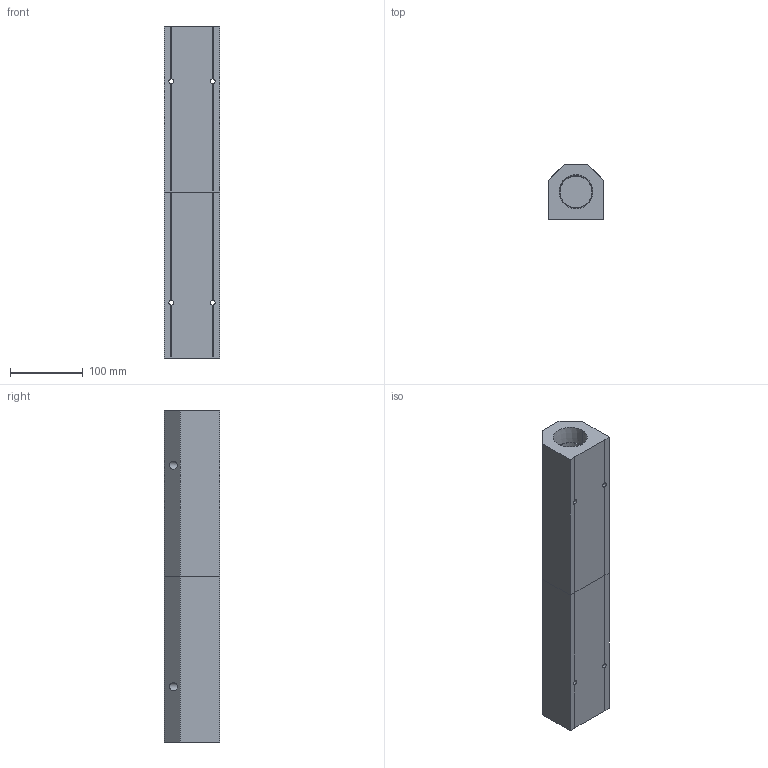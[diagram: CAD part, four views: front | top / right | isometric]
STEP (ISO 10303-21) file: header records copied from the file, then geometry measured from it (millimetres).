
FILE_DESCRIPTION (( 'STEP AP214' ), '1' );
FILE_NAME ('ALM8C-N6N24-457RB.step', '2022-02-07T09:16:16', ( '' ), ( '' ), 'SwSTEP 2.0', 'SolidWorks 2020', '' );
FILE_SCHEMA (( 'AUTOMOTIVE_DESIGN' ));
Length unit declared in the file: millimetre
Products named in the file (1): ALM8C-N6N24-457RB
Bounding box: 76.2 x 76.2 x 457 mm (x, y, z)
Volume: 1680066.5 mm3; surface area: 220655.7 mm2
Topology: 2 solids, 2 shells, 332 faces, 868 edges, 576 vertices
Faces by surface type: plane 226, bspline 66, cone 20, cylinder 20
Entity records: 18078 total; most frequent: CARTESIAN_POINT 7235, ORIENTED_EDGE 1736, DIRECTION 1294, EDGE_CURVE 868, LINE 648, VECTOR 648, VERTEX_POINT 576, EDGE_LOOP 392
